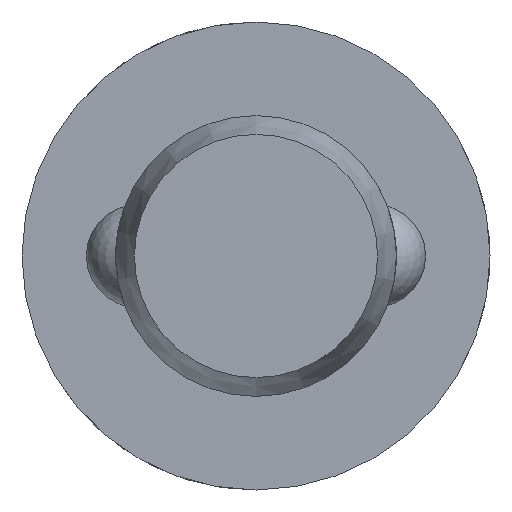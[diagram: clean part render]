
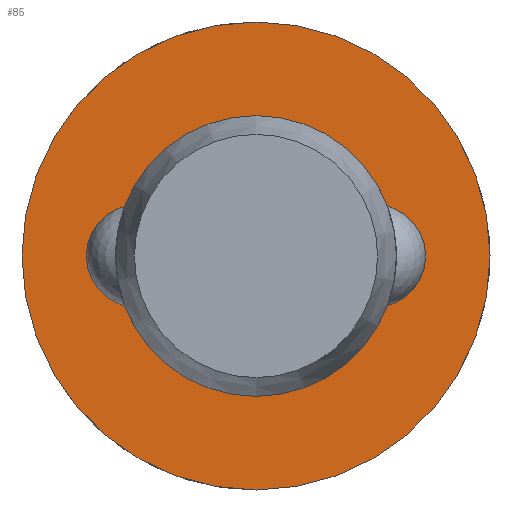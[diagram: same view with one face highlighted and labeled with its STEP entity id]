
A CAD part, left-side view. The second image highlights one B-rep face of the part: STEP entity #85.
In plain terms, the highlighted planar face has unit normal (-1, 0, 0).
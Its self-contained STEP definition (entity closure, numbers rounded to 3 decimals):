
#85 = ADVANCED_FACE( '', ( #130, #131 ), #132, .F. );
#130 = FACE_OUTER_BOUND( '', #201, .T. );
#131 = FACE_BOUND( '', #202, .T. );
#132 = PLANE( '', #203 );
#201 = EDGE_LOOP( '', ( #317 ) );
#202 = EDGE_LOOP( '', ( #318 ) );
#203 = AXIS2_PLACEMENT_3D( '', #319, #320, #321 );
#317 = ORIENTED_EDGE( '', *, *, #461, .F. );
#318 = ORIENTED_EDGE( '', *, *, #458, .T. );
#319 = CARTESIAN_POINT( '', ( 110.6, 6., 0. ) );
#320 = DIRECTION( '', ( 1., 0., 0. ) );
#321 = DIRECTION( '', ( 0., 0., -1. ) );
#458 = EDGE_CURVE( '', #532, #532, #533, .T. );
#461 = EDGE_CURVE( '', #538, #538, #539, .T. );
#532 = VERTEX_POINT( '', #742 );
#533 = CIRCLE( '', #743, 6. );
#538 = VERTEX_POINT( '', #858 );
#539 = CIRCLE( '', #859, 10. );
#742 = CARTESIAN_POINT( '', ( 110.6, 0., -6. ) );
#743 = AXIS2_PLACEMENT_3D( '', #936, #937, #938 );
#858 = CARTESIAN_POINT( '', ( 110.6, 0., -10. ) );
#859 = AXIS2_PLACEMENT_3D( '', #939, #940, #941 );
#936 = CARTESIAN_POINT( '', ( 110.6, 0., 0. ) );
#937 = DIRECTION( '', ( 1., 0., 0. ) );
#938 = DIRECTION( '', ( 0., 0., -1. ) );
#939 = CARTESIAN_POINT( '', ( 110.6, 0., 0. ) );
#940 = DIRECTION( '', ( 1., 0., 0. ) );
#941 = DIRECTION( '', ( 0., 0., -1. ) );
